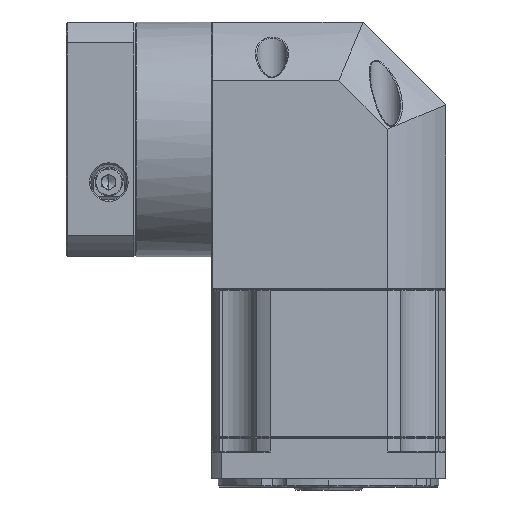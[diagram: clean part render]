
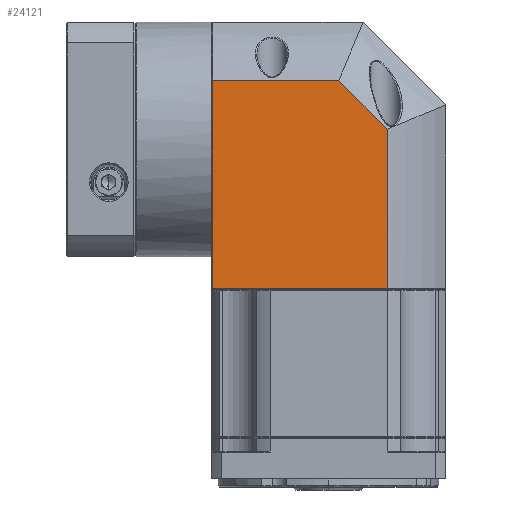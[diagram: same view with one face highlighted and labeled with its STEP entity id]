
A CAD part, left-side view. The second image highlights one B-rep face of the part: STEP entity #24121.
In plain terms, the highlighted planar face has unit normal (-1, 0, 0).
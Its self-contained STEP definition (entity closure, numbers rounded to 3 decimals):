
#1815 = ORIENTED_EDGE ( 'NONE', *, *, #9575, .F. ) ;
#5786 = EDGE_LOOP ( 'NONE', ( #76466, #45354, #1815, #74330, #59585 ) ) ;
#9575 = EDGE_CURVE ( 'NONE', #52381, #11663, #111067, .T. ) ;
#10426 = CARTESIAN_POINT ( 'NONE',  ( -91.772, 84.627, -26.339 ) ) ;
#11663 = VERTEX_POINT ( 'NONE', #109687 ) ;
#14097 = VECTOR ( 'NONE', #116279, 1000. ) ;
#15680 = CARTESIAN_POINT ( 'NONE',  ( -91.772, 38.444, 48.874 ) ) ;
#20057 = CARTESIAN_POINT ( 'NONE',  ( -91.772, 84.127, 48.874 ) ) ;
#23045 = CARTESIAN_POINT ( 'NONE',  ( -91.772, 84.627, 48.874 ) ) ;
#24121 = ADVANCED_FACE ( 'NONE', ( #60803 ), #129496, .F. ) ;
#42749 = VERTEX_POINT ( 'NONE', #20057 ) ;
#45354 = ORIENTED_EDGE ( 'NONE', *, *, #75568, .F. ) ;
#45721 = VECTOR ( 'NONE', #65179, 1000. ) ;
#52018 = DIRECTION ( 'NONE',  ( 0., -1., 0. ) ) ;
#52381 = VERTEX_POINT ( 'NONE', #112105 ) ;
#54166 = AXIS2_PLACEMENT_3D ( 'NONE', #70132, #80913, #101112 ) ;
#54829 = VECTOR ( 'NONE', #88166, 1000. ) ;
#59585 = ORIENTED_EDGE ( 'NONE', *, *, #128382, .F. ) ;
#60803 = FACE_OUTER_BOUND ( 'NONE', #5786, .T. ) ;
#60982 = VERTEX_POINT ( 'NONE', #121038 ) ;
#65179 = DIRECTION ( 'NONE',  ( 0., 0., 1. ) ) ;
#67889 = EDGE_CURVE ( 'NONE', #42749, #52381, #113460, .T. ) ;
#70132 = CARTESIAN_POINT ( 'NONE',  ( -91.772, 84.627, 70.161 ) ) ;
#70396 = VERTEX_POINT ( 'NONE', #90754 ) ;
#74330 = ORIENTED_EDGE ( 'NONE', *, *, #67889, .F. ) ;
#75568 = EDGE_CURVE ( 'NONE', #11663, #70396, #90014, .T. ) ;
#76466 = ORIENTED_EDGE ( 'NONE', *, *, #85238, .T. ) ;
#80913 = DIRECTION ( 'NONE',  ( 1., 0., 0. ) ) ;
#84416 = DIRECTION ( 'NONE',  ( 0., 0., -1. ) ) ;
#85238 = EDGE_CURVE ( 'NONE', #60982, #70396, #92570, .T. ) ;
#88166 = DIRECTION ( 'NONE',  ( 0., -0.707, -0.707 ) ) ;
#90014 = LINE ( 'NONE', #94301, #99665 ) ;
#90754 = CARTESIAN_POINT ( 'NONE',  ( -91.772, 20.913, -26.339 ) ) ;
#92570 = LINE ( 'NONE', #10426, #108672 ) ;
#94301 = CARTESIAN_POINT ( 'NONE',  ( -91.772, 20.913, 73.661 ) ) ;
#95641 = CARTESIAN_POINT ( 'NONE',  ( -91.772, 84.127, 70.161 ) ) ;
#99665 = VECTOR ( 'NONE', #84416, 1000. ) ;
#101112 = DIRECTION ( 'NONE',  ( 0., 1., 0. ) ) ;
#108672 = VECTOR ( 'NONE', #52018, 1000. ) ;
#109687 = CARTESIAN_POINT ( 'NONE',  ( -91.772, 20.913, 31.343 ) ) ;
#111067 = LINE ( 'NONE', #15680, #54829 ) ;
#112105 = CARTESIAN_POINT ( 'NONE',  ( -91.772, 38.444, 48.874 ) ) ;
#113460 = LINE ( 'NONE', #23045, #14097 ) ;
#114663 = LINE ( 'NONE', #95641, #45721 ) ;
#116279 = DIRECTION ( 'NONE',  ( 0., -1., 0. ) ) ;
#121038 = CARTESIAN_POINT ( 'NONE',  ( -91.772, 84.127, -26.339 ) ) ;
#128382 = EDGE_CURVE ( 'NONE', #60982, #42749, #114663, .T. ) ;
#129496 = PLANE ( 'NONE',  #54166 ) ;
